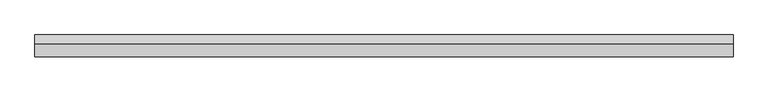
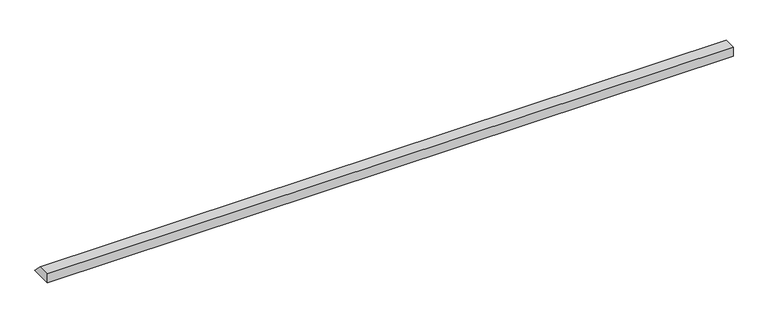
"""IFC4 building model written with IfcOpenShell, lengths in millimetres: proxy geometry, Gousset radier bord droit : Gousset radier bord droit."""

from ifc_helpers import new_model, si_unit, frame, origin, place, context, project, spatial, polyline, outline, extrude, source, transform, mapped, element, save


def generic_models_72a42a46(model_context):
    return source(origin(), model_context, "Body", "SweptSolid", [
        extrude(outline(polyline([(0.0, 0.0), (0.0, 350.0), (450.0, 350.0), (800.0, 0.0), (0.0, 0.0)])), frame((0.0, 0.0, 0.0), z_axis=(1.0, 0.0, 0.0), x_axis=(0.0, 1.0, 0.0)), (0.0, 0.0, 1.0), 25500.0000014),
    ])


if __name__ == "__main__":
    model = new_model("IFC4")
    model_context = context("Model", 3, world=origin())
    ifc_project = project(units=[si_unit("LENGTHUNIT", "METRE", prefix="MILLI")], contexts=[model_context])
    site = spatial("IfcSite", under=ifc_project)
    building = spatial("IfcBuilding", under=site)
    placement = place(None, origin())
    generic_models_shape = generic_models_72a42a46(model_context)
    element("IfcBuildingElementProxy", 1, Name="Gousset radier bord droit : Gousset radier bord droit", ObjectType="Gousset radier bord droit : Gousset radier bord droit", at=placement, inside=building, context=model_context, shape_type="MappedRepresentation", body=[
        mapped(generic_models_shape, transform((0.0, 0.0, 0.0), x_axis=(1.0, 0.0, 0.0), y_axis=(0.0, 1.0, 0.0), z_axis=(0.0, 0.0, 1.0))),
    ])
    save(model, "model.ifc")
